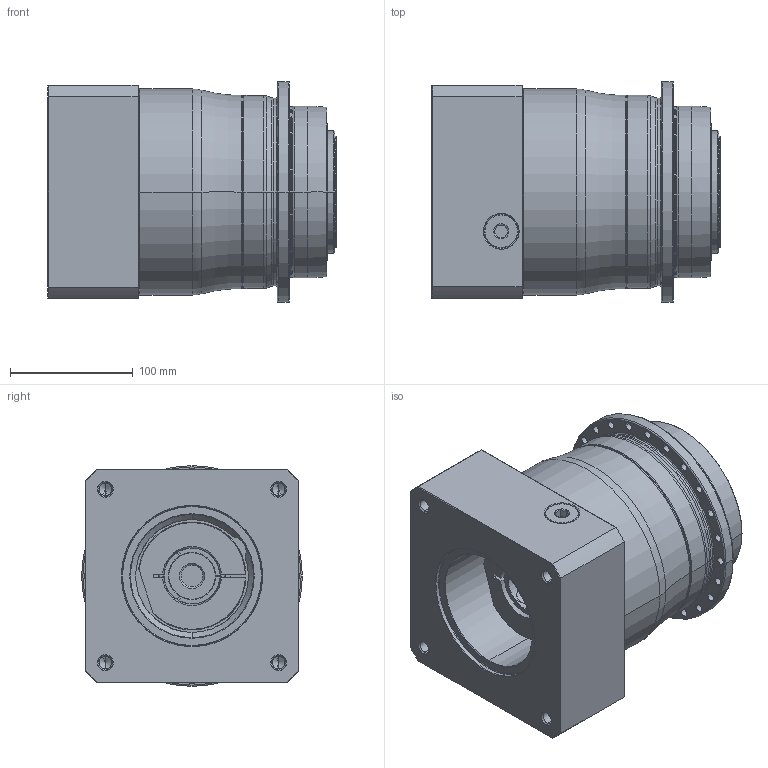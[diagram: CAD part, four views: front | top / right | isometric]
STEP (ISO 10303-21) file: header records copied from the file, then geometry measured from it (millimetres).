
FILE_DESCRIPTION((''),'2;1');
FILE_NAME('AP140_2ST_38-P0409910201_ASM','2018-05-29T',('d01226'),(''),'PRO/ENGINEER BY PARAMETRIC TECHNOLOGY CORPORATION, 2008410','PRO/ENGINEER BY PARAMETRIC TECHNOLOGY CORPORATION, 2008410','');
FILE_SCHEMA(('CONFIG_CONTROL_DESIGN'));
Length unit declared in the file: millimetre
Products named in the file (9): P0278501003; P0359501103; P1317510501; P0503900012; P0912455001; P1211500001; P0409910201; 21711422019; AP140_2ST_38-P0409910201_ASM
Assembly tree (8 placements, depth 2):
  AP140_2ST_38-P0409910201_ASM
    P0278501003
    P0359501103
    P1317510501
    P0503900012
    P0912455001
    P1211500001
    P0409910201
    21711422019
Bounding box: 235 x 180 x 180 mm (x, y, z)
Volume: 4431014.7 mm3; surface area: 428350 mm2
Topology: 9 solids, 34 shells, 644 faces, 1494 edges, 922 vertices
Faces by surface type: cylinder 272, cone 180, plane 109, torus 69, bspline 14
Entity records: 23452 total; most frequent: CARTESIAN_POINT 7961, DIRECTION 3565, ORIENTED_EDGE 2870, AXIS2_PLACEMENT_3D 1524, EDGE_CURVE 1486, VERTEX_POINT 922, CIRCLE 867, EDGE_LOOP 802
